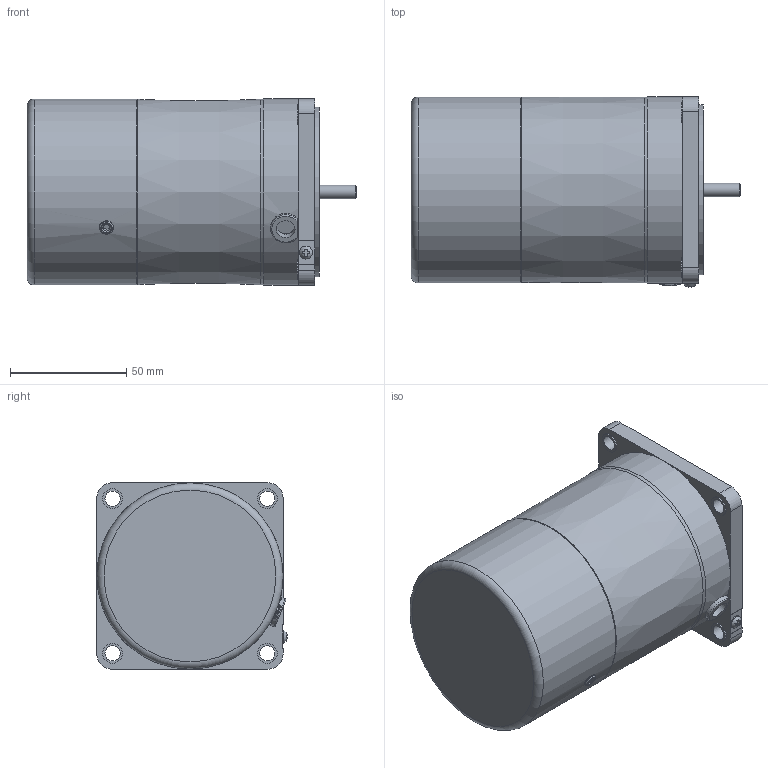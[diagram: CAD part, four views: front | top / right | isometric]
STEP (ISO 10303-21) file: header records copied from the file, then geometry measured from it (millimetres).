
FILE_DESCRIPTION(/* description */ (''),/* implementation_level */ '2;1');
FILE_NAME(/* name */ 'E:\도면작업\2016\0704) 미주향 SG 도면\3D MOTOR\ELECTROMAGNETIC BRAKE\SG8R(I)25G_-E.stp',/* time_stamp */ '2017-03-21T14:19:11+09:00',/* author */ ('jy-jung'),/* organization */ (''),/* preprocessor_version */ 'ST-DEVELOPER v15.6',/* originating_system */ 'Autodesk Inventor 2015',/* authorisation */ '');
FILE_SCHEMA (('AUTOMOTIVE_DESIGN { 1 0 10303 214 3 1 1 }'));
Length unit declared in the file: millimetre
Products named in the file (1): 부품23
Bounding box: 141.5 x 81.76 x 80 mm (x, y, z)
Volume: 621127.7 mm3; surface area: 47295.5 mm2
Topology: 1 solids, 2 shells, 116 faces, 269 edges, 177 vertices
Faces by surface type: plane 69, cylinder 38, torus 6, cone 2, bspline 1
Full cylindrical faces by diameter (mm): 3.1 x1, 4.6 x1, 5 x2, 5.6 x1, 5.72 x1, 6 x1, 6.5 x4, 8 x1, 8.5 x4, 34 x1, 73 x1, 78 x1, 79.8 x1, 80 x1
Entity records: 3475 total; most frequent: CARTESIAN_POINT 710, DIRECTION 544, ORIENTED_EDGE 478, EDGE_CURVE 239, AXIS2_PLACEMENT_3D 209, VERTEX_POINT 175, EDGE_LOOP 172, LINE 126
